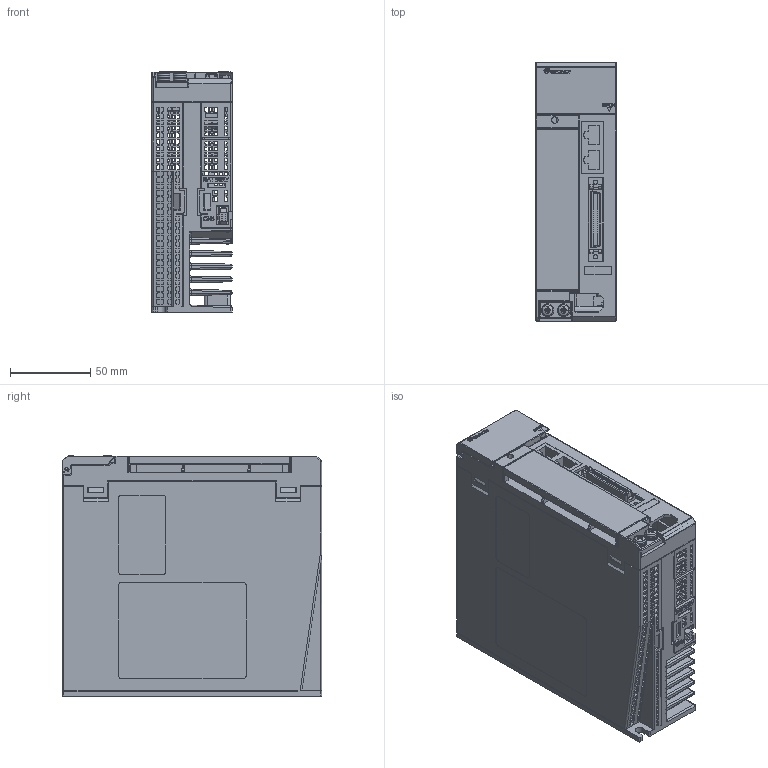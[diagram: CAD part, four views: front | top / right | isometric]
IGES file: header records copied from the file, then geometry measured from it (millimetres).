
Global section: file name: No Iges File Name specified; native system: AutoDesk Inventor R12.0; preprocessor: AutoDesk Inventor Iges Exporter R12.0; author: No Author specified; organization: No Organization specified; date: 20161012.102612; units: millimetre
Bounding box: 50 x 162 x 150.2 mm (x, y, z)
Volume: 267375.1 mm3; surface area: 223478.1 mm2
Topology: 4 solids, 7 shells, 5257 faces, 14677 edges, 9516 vertices
Faces by surface type: plane 3907, revolution 696, cylinder 422, sphere 96, bspline 68, cone 37, torus 31
